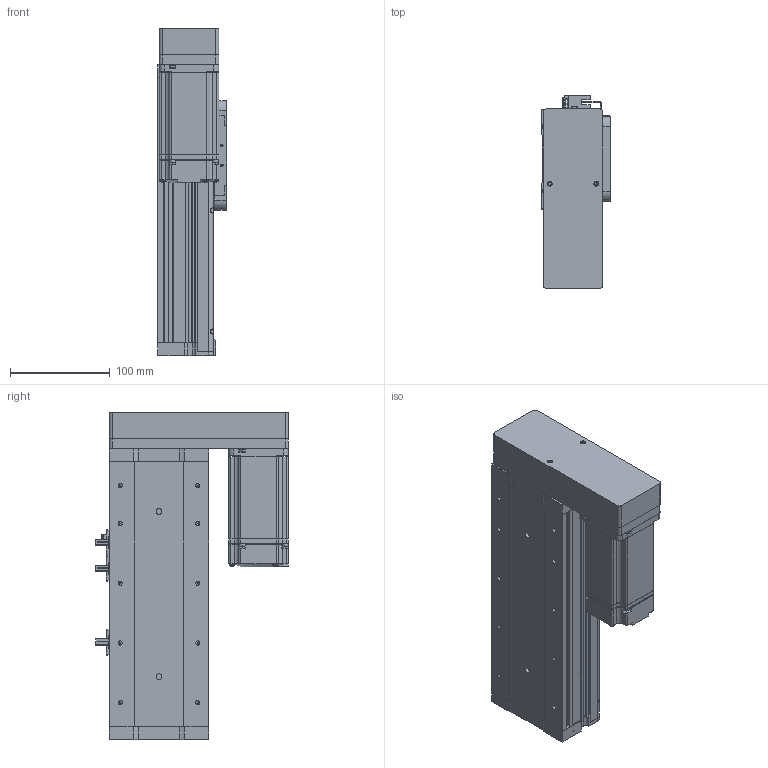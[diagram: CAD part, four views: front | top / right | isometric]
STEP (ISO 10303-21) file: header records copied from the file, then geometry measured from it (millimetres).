
FILE_DESCRIPTION (( 'STEP AP214' ), '1' );
FILE_NAME ('KSD100S-S100-MR-CR.STEP', '2019-09-03T00:56:50', ( '微软用户' ), ( '微软中国' ), 'SwSTEP 2.0', 'SolidWorks 2014', '' );
FILE_SCHEMA (( 'AUTOMOTIVE_DESIGN' ));
Length unit declared in the file: millimetre
Products named in the file (14): 100宽滚珠螺姆安装板1; 100遵裔啣揤啣; 100遵裔啣100俴最; 100遵耜啣100俴最佪裝; 100宽底板全封闭100行程丝杆; KSD100S-S100-MR-CR; MHMD042G1CA_2_03; U倰嫖萇EEㄜSX672; 悵誘欶酘衵殏; 100宽马达安装板连板左右折丝杆; 感应片100宽全封闭; 100宽马达安装板全封闭; 100宽端板全封闭; 100宽滚珠螺姆安装板1防护罩
Assembly tree (17 placements, depth 2):
  KSD100S-S100-MR-CR
    100宽底板全封闭100行程丝杆
    100遵耜啣100俴最佪裝  x2
    100遵裔啣100俴最
    100遵裔啣揤啣  x2
    100宽滚珠螺姆安装板1
    100宽滚珠螺姆安装板1防护罩
    100宽端板全封闭
    100宽马达安装板全封闭
    感应片100宽全封闭
    100宽马达安装板连板左右折丝杆
    悵誘欶酘衵殏
    U倰嫖萇EEㄜSX672  x3
    MHMD042G1CA_2_03
Bounding box: 70 x 193.7 x 328.5 mm (x, y, z)
Volume: 826170.1 mm3; surface area: 408509.7 mm2
Topology: 16 solids, 17 shells, 1537 faces, 4288 edges, 2766 vertices
Faces by surface type: plane 695, cylinder 647, cone 177, bspline 18
Entity records: 51174 total; most frequent: CARTESIAN_POINT 7976, DIRECTION 7303, ORIENTED_EDGE 6796, EDGE_CURVE 3470, AXIS2_PLACEMENT_3D 2585, VERTEX_POINT 2304, LINE 2133, VECTOR 2133
